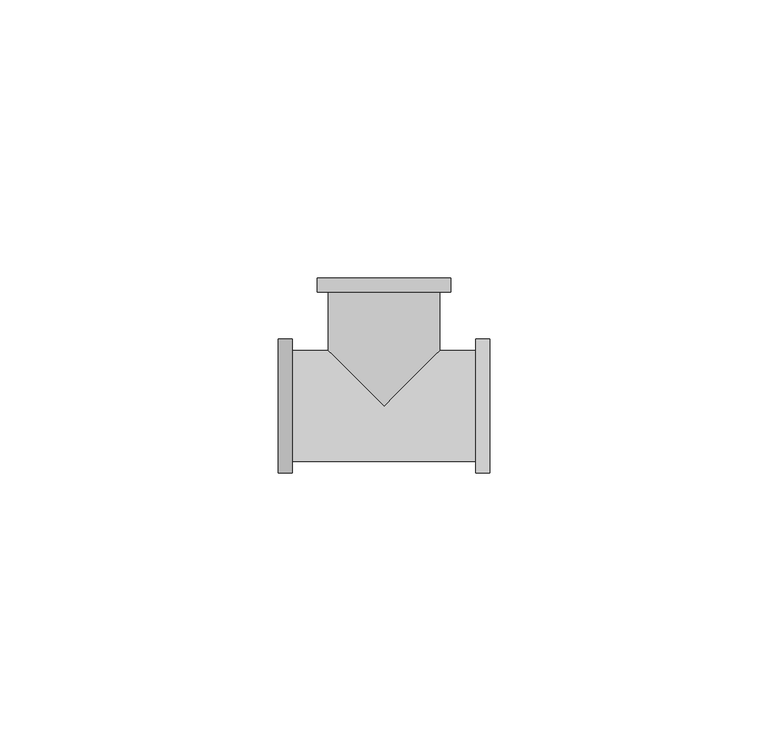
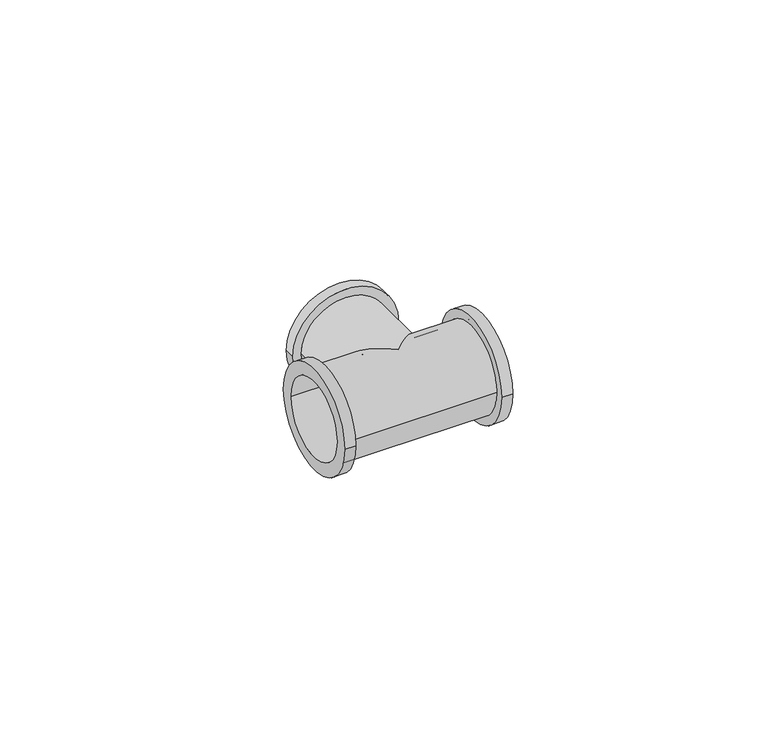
"""IFC4 building model written with IfcOpenShell, lengths in millimetres: pipe fitting geometry, БИР ПЕКС_НПР_Тройник ПЕКС : Тройник ПЕКС_НПР."""

from ifc_helpers import new_model, si_unit, frame, origin, place, context, project, spatial, polyline, circle_curve, ellipse_curve, source, transform, mapped, element, save
from ifc_brep_helpers import plane_surface, cylinder_surface, revolved_surface, advanced_brep


def pipe_fitting_fd31b61a(model_context):
    return source(origin(), model_context, "Body", "AdvancedBrep", [
        advanced_brep(
        [(-12.0, 23.0, 0.0), (12.0, 23.0, 0.0), (-9.0, 23.0, 0.0), (9.0, 23.0, 0.0), (10.0, 10.0, 0.0), (0.0, 0.0, -10.0), (-10.0, 10.0, 0.0), (-10.0, 20.5, 0.0), (10.0, 20.5, 0.0), (0.0, 0.0, 10.0), (19.0, -12.0, 0.0), (19.0, 12.0, 0.0), (19.0, 9.0, 0.0), (19.0, -9.0, 0.0), (-19.0, -12.0, 0.0), (-19.0, 12.0, 0.0), (-19.0, -9.0, 0.0), (-19.0, 9.0, 0.0), (16.5, 10.0, 0.0), (16.5, -10.0, 0.0), (-16.5, -10.0, 0.0), (-16.5, 10.0, 0.0), (-12.0, 20.5, 0.0), (12.0, 20.5, 0.0), (-16.5, -12.0, 0.0), (-16.5, 12.0, 0.0), (16.5, -12.0, 0.0), (16.5, 12.0, 0.0), (9.0, 9.0, 0.0), (0.0, 0.0, -9.0), (-9.0, 9.0, 0.0), (0.0, 0.0, 9.0)],
        [
            (0, 1, circle_curve(frame((0.0, 23.0, 0.0), z_axis=(0.0, 1.0, 0.0), x_axis=(1.0, 0.0, 0.0)), 12.0)),
            (1, 0, circle_curve(frame((0.0, 23.0, 0.0), z_axis=(0.0, 1.0, 0.0), x_axis=(1.0, 0.0, 0.0)), 12.0)),
            (2, 3, circle_curve(frame((0.0, 23.0, 0.0), z_axis=(0.0, -1.0, 0.0), x_axis=(1.0, 0.0, 0.0)), 9.0)),
            (3, 2, circle_curve(frame((0.0, 23.0, 0.0), z_axis=(0.0, -1.0, 0.0), x_axis=(1.0, 0.0, 0.0)), 9.0)),
            (4, 5, ellipse_curve(frame((0.0, 0.0, 0.0), z_axis=(-0.7071067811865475, 0.7071067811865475, 0.0), x_axis=(-0.7071067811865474, -0.7071067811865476, 0.0)), 14.1421356, 10.0)),
            (5, 6, ellipse_curve(frame((0.0, 0.0, 0.0), z_axis=(0.7071067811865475, 0.7071067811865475, 0.0), x_axis=(0.7071067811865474, -0.7071067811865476, 0.0)), 14.1421356, 10.0)),
            (6, 7),
            (7, 8, circle_curve(frame((0.0, 20.5, 0.0), z_axis=(0.0, -1.0, 0.0), x_axis=(1.0, 0.0, 0.0)), 10.0)),
            (8, 4),
            (9, 4, ellipse_curve(frame((0.0, 0.0, 0.0), z_axis=(-0.7071067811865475, 0.7071067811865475, 0.0), x_axis=(-0.7071067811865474, -0.7071067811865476, 0.0)), 14.1421356, 10.0)),
            (8, 7, circle_curve(frame((0.0, 20.5, 0.0), z_axis=(0.0, -1.0, 0.0), x_axis=(1.0, 0.0, 0.0)), 10.0)),
            (6, 9, ellipse_curve(frame((0.0, 0.0, 0.0), z_axis=(0.7071067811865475, 0.7071067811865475, 0.0), x_axis=(0.7071067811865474, -0.7071067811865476, 0.0)), 14.1421356, 10.0)),
            (10, 11, circle_curve(frame((19.0, 0.0, 0.0), z_axis=(1.0, 0.0, 0.0), x_axis=(0.0, 1.0, 0.0)), 12.0)),
            (11, 10, circle_curve(frame((19.0, 0.0, 0.0), z_axis=(1.0, 0.0, 0.0), x_axis=(0.0, 1.0, 0.0)), 12.0)),
            (12, 13, circle_curve(frame((19.0, 0.0, 0.0), z_axis=(-1.0, 0.0, 0.0), x_axis=(0.0, 1.0, 0.0)), 9.0)),
            (13, 12, circle_curve(frame((19.0, 0.0, 0.0), z_axis=(-1.0, 0.0, 0.0), x_axis=(0.0, 1.0, 0.0)), 9.0)),
            (14, 15, circle_curve(frame((-19.0, 0.0, 0.0), z_axis=(-1.0, 0.0, 0.0), x_axis=(0.0, 1.0, 0.0)), 12.0)),
            (15, 14, circle_curve(frame((-19.0, 0.0, 0.0), z_axis=(-1.0, 0.0, 0.0), x_axis=(0.0, 1.0, 0.0)), 12.0)),
            (16, 17, circle_curve(frame((-19.0, 0.0, 0.0), z_axis=(1.0, 0.0, 0.0), x_axis=(0.0, 1.0, 0.0)), 9.0)),
            (17, 16, circle_curve(frame((-19.0, 0.0, 0.0), z_axis=(1.0, 0.0, 0.0), x_axis=(0.0, 1.0, 0.0)), 9.0)),
            (4, 18),
            (18, 19, circle_curve(frame((16.5, 0.0, 0.0), z_axis=(-1.0, 0.0, 0.0), x_axis=(0.0, 1.0, 0.0)), 10.0)),
            (19, 20),
            (20, 21, circle_curve(frame((-16.5, 0.0, 0.0), z_axis=(1.0, 0.0, 0.0), x_axis=(0.0, 1.0, 0.0)), 10.0)),
            (21, 6),
            (21, 20, circle_curve(frame((-16.5, 0.0, 0.0), z_axis=(1.0, 0.0, 0.0), x_axis=(0.0, 1.0, 0.0)), 10.0)),
            (19, 18, circle_curve(frame((16.5, 0.0, 0.0), z_axis=(-1.0, 0.0, 0.0), x_axis=(0.0, 1.0, 0.0)), 10.0)),
            (22, 23, circle_curve(frame((0.0, 20.5, 0.0), z_axis=(0.0, -1.0, 0.0), x_axis=(1.0, 0.0, 0.0)), 12.0)),
            (23, 22, circle_curve(frame((0.0, 20.5, 0.0), z_axis=(0.0, -1.0, 0.0), x_axis=(1.0, 0.0, 0.0)), 12.0)),
            (22, 0),
            (1, 23),
            (24, 25, circle_curve(frame((-16.5, 0.0, 0.0), z_axis=(1.0, 0.0, 0.0), x_axis=(0.0, 1.0, 0.0)), 12.0)),
            (25, 24, circle_curve(frame((-16.5, 0.0, 0.0), z_axis=(1.0, 0.0, 0.0), x_axis=(0.0, 1.0, 0.0)), 12.0)),
            (15, 25),
            (24, 14),
            (26, 27, circle_curve(frame((16.5, 0.0, 0.0), z_axis=(-1.0, 0.0, 0.0), x_axis=(0.0, 1.0, 0.0)), 12.0)),
            (27, 26, circle_curve(frame((16.5, 0.0, 0.0), z_axis=(-1.0, 0.0, 0.0), x_axis=(0.0, 1.0, 0.0)), 12.0)),
            (10, 26),
            (27, 11),
            (16, 13),
            (12, 28),
            (28, 29, ellipse_curve(frame((0.0, 0.0, 0.0), z_axis=(-0.7071067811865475, 0.7071067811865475, 0.0), x_axis=(0.7071067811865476, 0.7071067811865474, 0.0)), 12.7279221, 9.0)),
            (29, 30, ellipse_curve(frame((0.0, 0.0, 0.0), z_axis=(0.7071067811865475, 0.7071067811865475, 0.0), x_axis=(0.7071067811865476, -0.7071067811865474, 0.0)), 12.7279221, 9.0)),
            (30, 17),
            (30, 31, ellipse_curve(frame((0.0, 0.0, 0.0), z_axis=(0.7071067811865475, 0.7071067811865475, 0.0), x_axis=(0.7071067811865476, -0.7071067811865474, 0.0)), 12.7279221, 9.0)),
            (31, 28, ellipse_curve(frame((0.0, 0.0, 0.0), z_axis=(-0.7071067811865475, 0.7071067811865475, 0.0), x_axis=(0.7071067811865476, 0.7071067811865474, 0.0)), 12.7279221, 9.0)),
            (2, 30),
            (28, 3),
        ],
        [
            plane_surface(frame((10.0, 23.0, 0.0), z_axis=(0.0, 1.0, 0.0), x_axis=(0.0, 0.0, -1.0))),
            cylinder_surface(frame((0.0, 23.0, 0.0), z_axis=(0.0, -1.0, 0.0), x_axis=(1.0, 0.0, 0.0)), 10.0),
            plane_surface(frame((19.0, 10.0, 0.0), z_axis=(1.0, 0.0, 0.0), x_axis=(0.0, 0.0, 1.0))),
            plane_surface(frame((-19.0, 10.0, 0.0), z_axis=(-1.0, 0.0, 0.0), x_axis=(0.0, 0.0, -1.0))),
            cylinder_surface(frame((-19.0, 0.0, 0.0), z_axis=(1.0, 0.0, 0.0), x_axis=(0.0, 1.0, 0.0)), 10.0),
            plane_surface(frame((12.0, 20.5, 0.0), z_axis=(0.0, -1.0, 0.0), x_axis=(0.0, 0.0, 1.0))),
            cylinder_surface(frame((0.0, 23.0, 0.0), z_axis=(0.0, -1.0, 0.0), x_axis=(1.0, 0.0, 0.0)), 12.0),
            plane_surface(frame((-16.5, 12.0, 0.0), z_axis=(1.0, 0.0, 0.0), x_axis=(0.0, 0.0, 1.0))),
            cylinder_surface(frame((-16.5, 0.0, 0.0), z_axis=(-1.0, 0.0, 0.0), x_axis=(0.0, 1.0, 0.0)), 12.0),
            plane_surface(frame((16.5, 12.0, 0.0), z_axis=(-1.0, 0.0, 0.0), x_axis=(0.0, 0.0, -1.0))),
            cylinder_surface(frame((16.5, 0.0, 0.0), z_axis=(1.0, 0.0, 0.0), x_axis=(0.0, 1.0, 0.0)), 12.0),
            revolved_surface(polyline([(19.0, 9.0, 0.0), (-19.0, 9.0, 0.0)]), (-19.0, 0.0, 0.0), (1.0, 0.0, 0.0)),
            revolved_surface(polyline([(9.0, -9.00000002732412, 0.0), (9.0, 23.0, 0.0)]), (0.0, 23.0, 0.0), (0.0, -1.0, 0.0)),
        ],
        [
            (0, [[1, 2], [3, 4]]),
            (1, [[5, 6, 7, 8, 9]]),
            (1, [[10, -9, 11, -7, 12]]),
            (2, [[13, 14], [15, 16]]),
            (3, [[17, 18], [19, 20]]),
            (4, [[-5, 21, 22, 23, 24, 25, -6]]),
            (4, [[-10, -12, -25, 26, -23, 27, -21]]),
            (5, [[28, 29], [-8, -11]]),
            (6, [[-28, 30, -2, 31]]),
            (6, [[-29, -31, -1, -30]]),
            (7, [[32, 33], [-24, -26]]),
            (8, [[-18, 34, -32, 35]]),
            (8, [[-17, -35, -33, -34]]),
            (9, [[36, 37], [-22, -27]]),
            (10, [[-13, 38, -37, 39]]),
            (10, [[-14, -39, -36, -38]]),
            (11, [[40, -15, 41, 42, 43, 44, -19]]),
            (11, [[-40, -20, -44, 45, 46, -41, -16]]),
            (12, [[47, -43, -42, 48, -3]]),
            (12, [[-47, -4, -48, -46, -45]]),
        ],
    ),
    ])


if __name__ == "__main__":
    model = new_model("IFC4")
    model_context = context("Model", 3, world=origin())
    ifc_project = project(units=[si_unit("LENGTHUNIT", "METRE", prefix="MILLI")], contexts=[model_context])
    site = spatial("IfcSite", under=ifc_project)
    building = spatial("IfcBuilding", under=site)
    placement = place(None, origin())
    pipe_fitting_shape = pipe_fitting_fd31b61a(model_context)
    element("IfcPipeFitting", 1, ObjectType="БИР ПЕКС_НПР_Тройник ПЕКС : Тройник ПЕКС_НПР", at=placement, inside=building, context=model_context, shape_type="MappedRepresentation", body=[
        mapped(pipe_fitting_shape, transform((0.0, 0.0, 0.0), x_axis=(1.0, 0.0, 0.0), y_axis=(0.0, 1.0, 0.0), z_axis=(0.0, 0.0, 1.0))),
    ])
    save(model, "model.ifc")
